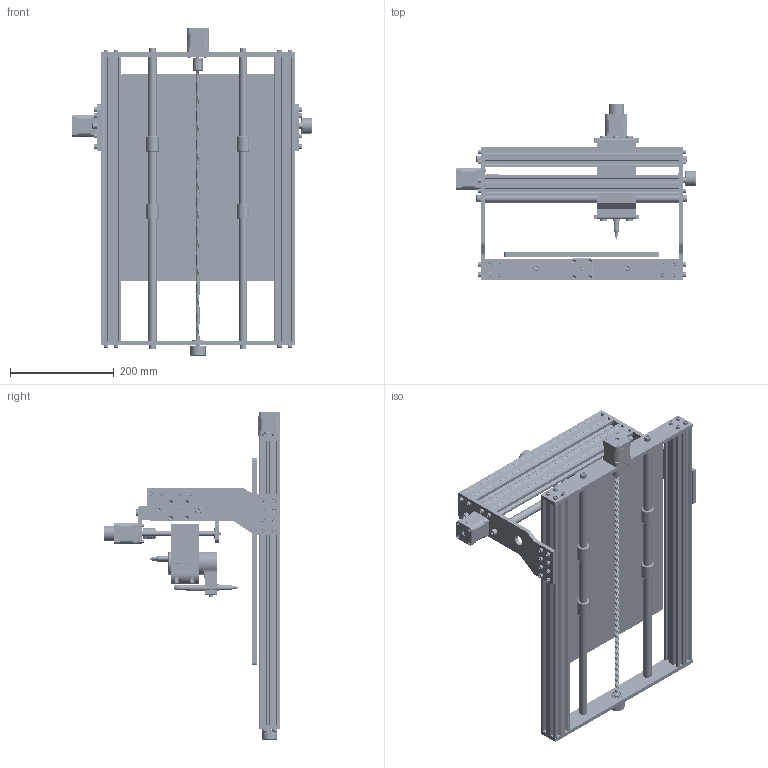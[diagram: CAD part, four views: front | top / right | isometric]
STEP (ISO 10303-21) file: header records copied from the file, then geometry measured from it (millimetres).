
FILE_DESCRIPTION(/* description */ ('STEP AP214'),/* implementation_level */ '2;1');
FILE_NAME(/* name */ 'CNC 3040 Pro Max Metal pen holder.stp',/* time_stamp */ '2024-11-10T20:25:05+01:00',/* author */ ('R5800u'),/* organization */ (''),/* preprocessor_version */ 'ST-DEVELOPER v20',/* originating_system */ 'Autodesk Inventor 2025',/* authorisation */ '');
FILE_SCHEMA (('AUTOMOTIVE_DESIGN { 1 0 10303 214 3 1 1 }'));
Products named in the file (44): CNC 3040 Pro Max Metal pen; front plate; V-Slot 40x40_Demo; V-Slot 20x40_Demo; right plate; barra_16mm_612mm; barra_16mm_458mm; Linear motion bearing LBP 162430 GB/T 16940; BARRA FILETTATA T12 470mm p2mm 1P; BARRA FILETTATA T12 620mm p2mm 1P copy; PIANO_LAVORO 400X300; left plate; back plate; AS 1420 - 1973 - M8 x 30; blocco_motore_1_52mm; blocco_motore_2_52mm pen; AS 1420 - 1973 - M5 x 35; barre_10mm; supporto_blocco_motore_52mm; Linear motion bearing LBP 101726 GB/T 16940; AS 1420 - 1973 - M5 x 25; BARRA FILETTATA T8 asse Z; blocco_asse_x; blocco_asse_x_top; Nema_17_PHB42S48-401; blocco_asse_x_bottom; %3% BS 290 - SKF 608; GIUNTO 12-5; Original - Trapezgewindemutter; dado T8 smussato; AS 1420 - 1973 - M8 x 16; AS 1420 - 1973 - M4 x 16; AS 1420 - 1973 - M3 x 6; AS 1420 - 1973 - M3 x 14; AS 1420 - 1973 - M3 x 16; bast; Original - Zylinderkopfschraube M4x30_1; Original - Kontermutter Spindelhalter_1; dayere copy; adattatore_45_52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
Assembly tree (138 placements, depth 2):
  CNC 3040 Pro Max Metal pen
    front plate
    V-Slot 40x40_Demo  x2
    V-Slot 20x40_Demo  x2
    right plate
    Nema_17_PHB42S48-401  x3
    manopola  x3
    barra_16mm_612mm  x2
    barra_16mm_458mm  x2
    Linear motion bearing LBP 162430 GB/T 16940  x8
    %3% BS 290 - SKF 608  x3
    BARRA FILETTATA T12 470mm p2mm 1P
    BARRA FILETTATA T12 620mm p2mm 1P copy
    PIANO_LAVORO 400X300
    GIUNTO 12-5  x3
    left plate
    back plate
    AS 1420 - 1973 - M5 x 25  x44
    AS 1420 - 1973 - M8 x 30  x8
    blocco_motore_1_52mm
    blocco_motore_2_52mm pen
    AS 1420 - 1973 - M5 x 35  x4
    barre_10mm  x2
    Linear motion bearing LBP 101726 GB/T 16940  x4
    supporto_blocco_motore_52mm
    BARRA FILETTATA T8 asse Z
    Original - Trapezgewindemutter  x2
    blocco_asse_x
    blocco_asse_x_top
    blocco_asse_x_bottom
    dado T8 smussato  x2
    AS 1420 - 1973 - M8 x 16  x6
    AS 1420 - 1973 - M4 x 16  x2
    AS 1420 - 1973 - M3 x 6  x4
    AS 1420 - 1973 - M3 x 14  x4
    AS 1420 - 1973 - M3 x 16  x4
    bast
    Original - Kontermutter Spindelhalter_1  x2
    Original - Zylinderkopfschraube M4x30_1  x2
    dayere copy
    adattatore_45_52
    blu
    rosso
    Sharpie Marker v1.0
Bounding box: 462.6 x 341.36 x 633.1 mm (x, y, z)
Volume: 3974387.1 mm3; surface area: 1746341.5 mm2
Topology: 258 solids, 258 shells, 4726 faces, 13337 edges, 8861 vertices
Faces by surface type: cylinder 1973, plane 1785, torus 405, cone 244, sphere 234, bspline 85
Full cylindrical faces by diameter (mm): 0.2 x2, 2.5 x12, 3 x18, 3.2 x12, 3.242 x19, 3.3 x6, 3.4 x4, 3.5 x4, 4 x4, 4.134 x4, 4.2 x4, 4.25 x3, 4.6 x8, 5 x56, 5.5 x351, 6 x3, 6.5 x2, 6.647 x14, 7 x22, 8 x391, 8.2 x4, 8.4 x6, 8.5 x48, 9 x12, 10 x23, 10.4 x4, 10.795 x6, 12 x3, 12.48 x6, 12.7 x3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
Entity records: 154098 total; most frequent: CARTESIAN_POINT 92665, ORIENTED_EDGE 13570, DIRECTION 10442, EDGE_CURVE 6785, VERTEX_POINT 4577, AXIS2_PLACEMENT_3D 3706, LINE 3030, VECTOR 3030
